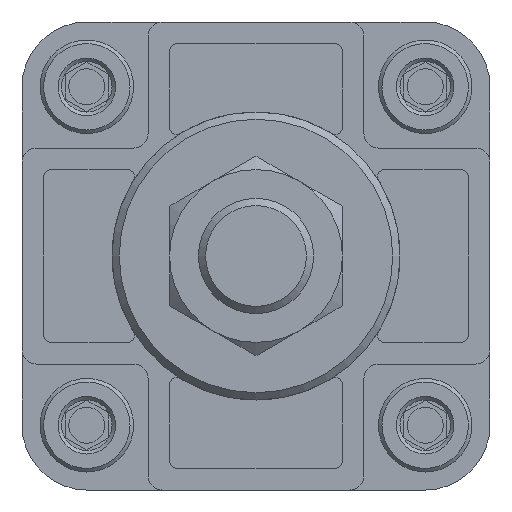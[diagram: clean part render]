
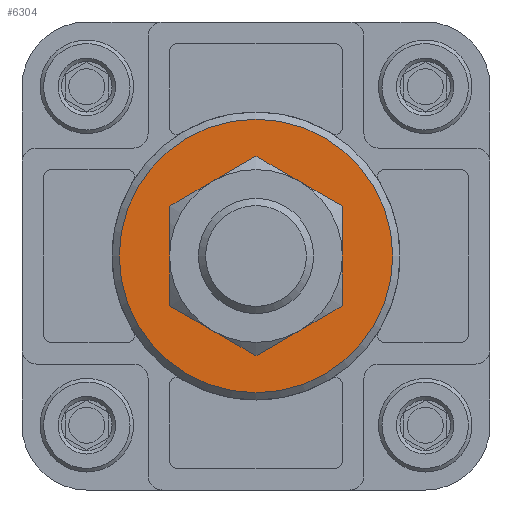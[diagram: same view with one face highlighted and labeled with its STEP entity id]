
A CAD part, front view. The second image highlights one B-rep face of the part: STEP entity #6304.
In plain terms, the highlighted planar face has unit normal (0, -1, 0).
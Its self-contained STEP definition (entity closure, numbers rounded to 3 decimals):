
#971=ORIENTED_EDGE('',*,*,#2277,.T.);
#972=ORIENTED_EDGE('',*,*,#2279,.T.);
#2277=EDGE_CURVE('',#2932,#2932,#3395,.T.);
#2279=EDGE_CURVE('',#2934,#2934,#3397,.F.);
#2932=VERTEX_POINT('',#8687);
#2934=VERTEX_POINT('',#8693);
#3395=CIRCLE('',#6626,11.);
#3397=CIRCLE('',#6630,19.);
#3662=EDGE_LOOP('',(#971));
#3663=EDGE_LOOP('',(#972));
#4068=FACE_BOUND('',#3662,.T.);
#4069=FACE_BOUND('',#3663,.T.);
#4468=PLANE('',#6629);
#6304=ADVANCED_FACE('',(#4068,#4069),#4468,.F.);
#6626=AXIS2_PLACEMENT_3D('',#8686,#7198,#7199);
#6629=AXIS2_PLACEMENT_3D('',#8691,#7204,#7205);
#6630=AXIS2_PLACEMENT_3D('',#8692,#7206,#7207);
#7198=DIRECTION('',(0.,1.,0.));
#7199=DIRECTION('',(0.,0.,1.));
#7204=DIRECTION('',(0.,1.,0.));
#7205=DIRECTION('',(0.,0.,1.));
#7206=DIRECTION('',(0.,1.,0.));
#7207=DIRECTION('',(0.,0.,1.));
#8686=CARTESIAN_POINT('',(0.,-50.,0.));
#8687=CARTESIAN_POINT('',(0.,-50.,11.));
#8691=CARTESIAN_POINT('',(0.,-50.,0.));
#8692=CARTESIAN_POINT('',(0.,-50.,0.));
#8693=CARTESIAN_POINT('',(0.,-50.,19.));
